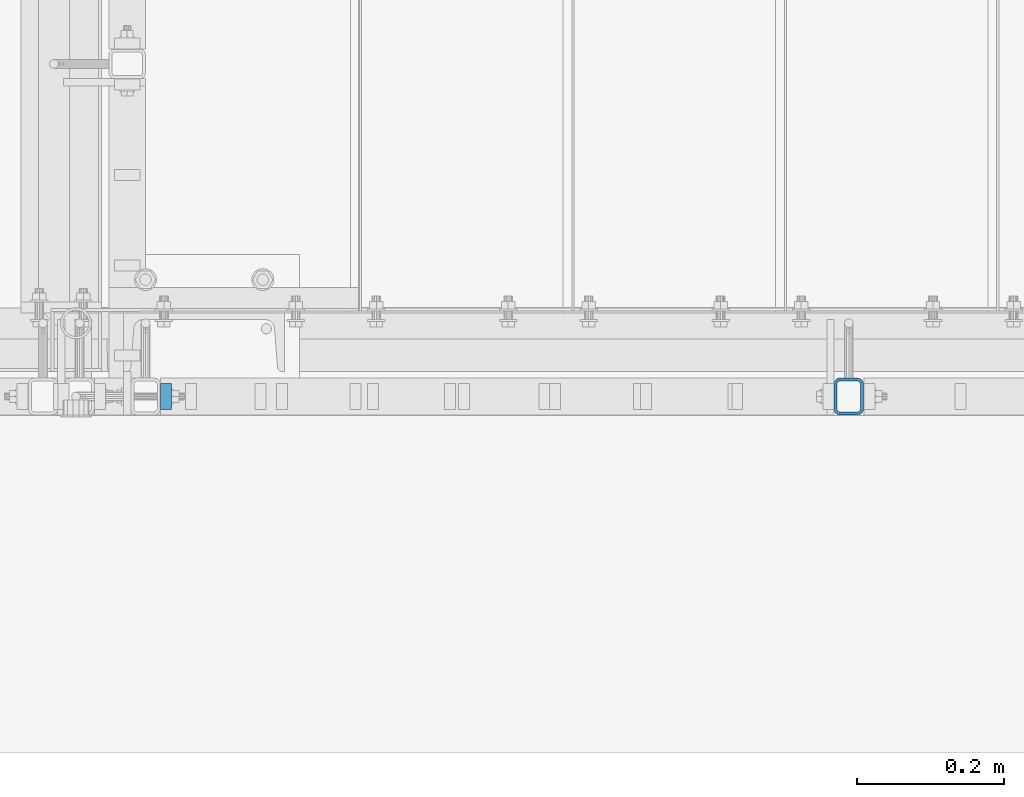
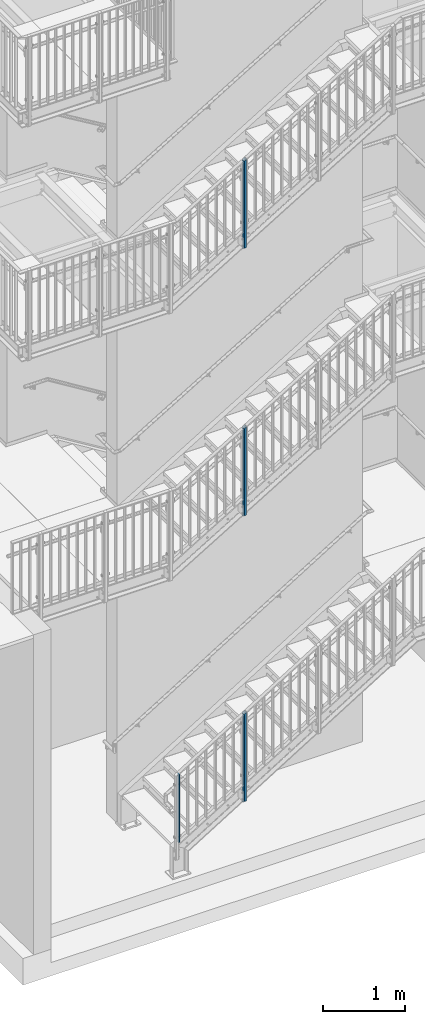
# One storey, part 7 of 410: 4 columns, 26 openings.
"""IFC2X3 building model written with IfcOpenShell, lengths in millimetres."""

from ifc_helpers import new_model, entity, si_unit, converted_unit, frame, frame_2d, origin, origin_with_axes, origin_2d, place, context, project, spatial, rectangle, hollow_rectangle, circle, extrude, clip, halfspace, material, element, save


model = new_model("IFC2X3")

# Units and contexts
model_context = context("Model", 3, precision=1e-09, world=origin_with_axes())
ifc_project = project(units=[si_unit("LENGTHUNIT", "METRE", prefix="MILLI"), si_unit("AREAUNIT", "SQUARE_METRE"), si_unit("VOLUMEUNIT", "CUBIC_METRE"), converted_unit("PLANEANGLEUNIT", "DEGREE", entity("IfcPlaneAngleMeasure", 0.01745329), si_unit("PLANEANGLEUNIT", "RADIAN"), dimensions=[0, 0, 0, 0, 0, 0, 0])], contexts=[model_context])

# Site, building, storey
site_placement = place(None, origin_with_axes())
site = spatial("IfcSite", under=ifc_project, at=site_placement, Name="mKR Teilneubau & Sanierung BA1 - Ostfildern", CompositionType="ELEMENT")
building_placement = place(site_placement, origin_with_axes())
building = spatial("IfcBuilding", under=site, at=building_placement, Name="Struktur 1", CompositionType="ELEMENT")
storey_placement = place(building_placement, origin_with_axes())
storey = spatial("IfcBuildingStorey", under=building, at=storey_placement, Name="Default Storey", CompositionType="ELEMENT", Elevation=0.0)

# Column, openings
ifc_material = material(Name="S235JR")
column_1_placement = place(None, frame((-734.998531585, 15405.999999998, 1754.356123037), z_axis=(0.0, 0.0, 1.0), x_axis=(-1.0, 0.0, 0.0)))
column_1 = element("IfcColumn", 1, at=column_1_placement, inside=storey, material=ifc_material, Name="-", ObjectType="-", context=model_context, shape_type="Clipping", body=[
    clip(clip(extrude(hollow_rectangle(XDim=40.0, YDim=50.0, WallThickness=4.0, InnerFilletRadius=4.0, OuterFilletRadius=8.0, at=origin_2d()), origin(), (0.0, 0.0, -1.0), 1495.505797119), halfspace(frame((-734.998531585, 10175.033154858, 5716.238750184), z_axis=(0.0, -0.573576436, 0.819152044), x_axis=(1.0, 0.0, 0.0)), True)), halfspace(frame((198.60118136, 15405.999999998, -197.578601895), z_axis=(-0.51430666, 0.0, -0.857606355), x_axis=(0.0, -1.0, 0.0)), True)),
])
opening_1_placement = place(column_1_placement, frame((-20.5, 0.0, -1315.902575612), z_axis=(1.0, 0.0, 0.0), x_axis=(0.0, 1.0, 0.0)))
element("IfcOpeningElement", 2, at=opening_1_placement, cuts=column_1, ObjectType="Opening", context=model_context, shape_type="SweptSolid", body=[
    extrude(circle(Radius=7.001, at=frame_2d((0.0, 50.0), x_axis=(1.0, 0.0))), origin(), (0.0, 0.0, 1.0), 5.0),
])
opening_2_placement = place(column_1_placement, frame((-20.5, 0.0, -1315.902575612), z_axis=(1.0, 0.0, 0.0), x_axis=(0.0, 1.0, 0.0)))
element("IfcOpeningElement", 3, at=opening_2_placement, cuts=column_1, ObjectType="Opening", context=model_context, shape_type="SweptSolid", body=[
    extrude(circle(Radius=7.001, at=frame_2d((0.0, -50.0), x_axis=(1.0, 0.0))), origin(), (0.0, 0.0, 1.0), 5.0),
])
opening_3_placement = place(column_1_placement, frame((15.5, 0.0, -1315.902575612), z_axis=(1.0, 0.0, 0.0), x_axis=(0.0, 1.0, 0.0)))
element("IfcOpeningElement", 4, at=opening_3_placement, cuts=column_1, ObjectType="Opening", context=model_context, shape_type="SweptSolid", body=[
    extrude(circle(Radius=7.001, at=frame_2d((0.0, 50.0), x_axis=(1.0, 0.0))), origin(), (0.0, 0.0, 1.0), 5.0),
])
opening_4_placement = place(column_1_placement, frame((15.5, 0.0, -1315.902575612), z_axis=(1.0, 0.0, 0.0), x_axis=(0.0, 1.0, 0.0)))
element("IfcOpeningElement", 5, at=opening_4_placement, cuts=column_1, ObjectType="Opening", context=model_context, shape_type="SweptSolid", body=[
    extrude(circle(Radius=7.001, at=frame_2d((0.0, -50.0), x_axis=(1.0, 0.0))), origin(), (0.0, 0.0, 1.0), 5.0),
])
opening_5_placement = place(column_1_placement, frame((15.5, -6.501, -1011.483440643), z_axis=(-1.0, 0.0, 0.0), x_axis=(0.0, -1.0, 0.0)))
element("IfcOpeningElement", 6, at=opening_5_placement, cuts=column_1, ObjectType="Opening", context=model_context, shape_type="SweptSolid", body=[
    extrude(circle(Radius=6.501, at=frame_2d((-6.501, 0.0), x_axis=(1.0, 0.0))), origin(), (0.0, 0.0, -1.0), 5.0),
])
opening_6_placement = place(column_1_placement, frame((15.5, -6.501, -226.483440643), z_axis=(-1.0, 0.0, 0.0), x_axis=(0.0, -1.0, 0.0)))
element("IfcOpeningElement", 7, at=opening_6_placement, cuts=column_1, ObjectType="Opening", context=model_context, shape_type="SweptSolid", body=[
    extrude(circle(Radius=6.501, at=frame_2d((-6.501, 0.0), x_axis=(1.0, 0.0))), origin(), (0.0, 0.0, -1.0), 5.0),
])
opening_7_placement = place(column_1_placement, frame((-20.5, -6.501, -1011.483440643), z_axis=(-1.0, 0.0, 0.0), x_axis=(0.0, -1.0, 0.0)))
element("IfcOpeningElement", 8, at=opening_7_placement, cuts=column_1, ObjectType="Opening", context=model_context, shape_type="SweptSolid", body=[
    extrude(circle(Radius=6.501, at=frame_2d((-6.501, 0.0), x_axis=(1.0, 0.0))), origin(), (0.0, 0.0, -1.0), 5.0),
])
opening_8_placement = place(column_1_placement, frame((-20.5, -6.501, -226.483440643), z_axis=(-1.0, 0.0, 0.0), x_axis=(0.0, -1.0, 0.0)))
element("IfcOpeningElement", 9, at=opening_8_placement, cuts=column_1, ObjectType="Opening", context=model_context, shape_type="SweptSolid", body=[
    extrude(circle(Radius=6.501, at=frame_2d((-6.501, 0.0), x_axis=(1.0, 0.0))), origin(), (0.0, 0.0, -1.0), 5.0),
])

column_2_placement = place(None, frame((-734.998531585, 15405.999999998, 5758.167273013), z_axis=(0.0, 0.0, 1.0), x_axis=(-1.0, 0.0, 0.0)))
column_2 = element("IfcColumn", 10, at=column_2_placement, inside=storey, material=ifc_material, Name="-", ObjectType="-", context=model_context, shape_type="Clipping", body=[
    clip(clip(extrude(hollow_rectangle(XDim=40.0, YDim=50.0, WallThickness=4.0, InnerFilletRadius=4.0, OuterFilletRadius=8.0, at=origin_2d()), origin(), (0.0, 0.0, -1.0), 1495.987494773), halfspace(frame((-734.998531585, 8294.083582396, 4398.7019829), z_axis=(0.0, -0.573576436, 0.819152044), x_axis=(1.0, 0.0, 0.0)), True)), halfspace(frame((1973.6019808, 15405.999999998, -1269.62928106), z_axis=(-0.516664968, 0.0, -0.856187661), x_axis=(0.0, -1.0, 0.0)), True)),
])
opening_9_placement = place(column_2_placement, frame((-20.5, 0.0, -1316.384273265), z_axis=(1.0, 0.0, 0.0), x_axis=(0.0, 1.0, 0.0)))
element("IfcOpeningElement", 11, at=opening_9_placement, cuts=column_2, ObjectType="Opening", context=model_context, shape_type="SweptSolid", body=[
    extrude(circle(Radius=7.001, at=frame_2d((0.0, 50.0), x_axis=(1.0, 0.0))), origin(), (0.0, 0.0, 1.0), 5.0),
])
opening_10_placement = place(column_2_placement, frame((-20.5, 0.0, -1316.384273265), z_axis=(1.0, 0.0, 0.0), x_axis=(0.0, 1.0, 0.0)))
element("IfcOpeningElement", 12, at=opening_10_placement, cuts=column_2, ObjectType="Opening", context=model_context, shape_type="SweptSolid", body=[
    extrude(circle(Radius=7.001, at=frame_2d((0.0, -50.0), x_axis=(1.0, 0.0))), origin(), (0.0, 0.0, 1.0), 5.0),
])
opening_11_placement = place(column_2_placement, frame((15.5, 0.0, -1316.384273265), z_axis=(1.0, 0.0, 0.0), x_axis=(0.0, 1.0, 0.0)))
element("IfcOpeningElement", 13, at=opening_11_placement, cuts=column_2, ObjectType="Opening", context=model_context, shape_type="SweptSolid", body=[
    extrude(circle(Radius=7.001, at=frame_2d((0.0, 50.0), x_axis=(1.0, 0.0))), origin(), (0.0, 0.0, 1.0), 5.0),
])
opening_12_placement = place(column_2_placement, frame((15.5, 0.0, -1316.384273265), z_axis=(1.0, 0.0, 0.0), x_axis=(0.0, 1.0, 0.0)))
element("IfcOpeningElement", 14, at=opening_12_placement, cuts=column_2, ObjectType="Opening", context=model_context, shape_type="SweptSolid", body=[
    extrude(circle(Radius=7.001, at=frame_2d((0.0, -50.0), x_axis=(1.0, 0.0))), origin(), (0.0, 0.0, 1.0), 5.0),
])
opening_13_placement = place(column_2_placement, frame((15.5, -6.501, -1011.593602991), z_axis=(-1.0, 0.0, 0.0), x_axis=(0.0, -1.0, 0.0)))
element("IfcOpeningElement", 15, at=opening_13_placement, cuts=column_2, ObjectType="Opening", context=model_context, shape_type="SweptSolid", body=[
    extrude(circle(Radius=6.501, at=frame_2d((-6.501, 0.0), x_axis=(1.0, 0.0))), origin(), (0.0, 0.0, -1.0), 5.0),
])
opening_14_placement = place(column_2_placement, frame((15.5, -6.501, -226.593602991), z_axis=(-1.0, 0.0, 0.0), x_axis=(0.0, -1.0, 0.0)))
element("IfcOpeningElement", 16, at=opening_14_placement, cuts=column_2, ObjectType="Opening", context=model_context, shape_type="SweptSolid", body=[
    extrude(circle(Radius=6.501, at=frame_2d((-6.501, 0.0), x_axis=(1.0, 0.0))), origin(), (0.0, 0.0, -1.0), 5.0),
])
opening_15_placement = place(column_2_placement, frame((-20.5, -6.501, -1011.593602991), z_axis=(-1.0, 0.0, 0.0), x_axis=(0.0, -1.0, 0.0)))
element("IfcOpeningElement", 17, at=opening_15_placement, cuts=column_2, ObjectType="Opening", context=model_context, shape_type="SweptSolid", body=[
    extrude(circle(Radius=6.501, at=frame_2d((-6.501, 0.0), x_axis=(1.0, 0.0))), origin(), (0.0, 0.0, -1.0), 5.0),
])
opening_16_placement = place(column_2_placement, frame((-20.5, -6.501, -226.593602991), z_axis=(-1.0, 0.0, 0.0), x_axis=(0.0, -1.0, 0.0)))
element("IfcOpeningElement", 18, at=opening_16_placement, cuts=column_2, ObjectType="Opening", context=model_context, shape_type="SweptSolid", body=[
    extrude(circle(Radius=6.501, at=frame_2d((-6.501, 0.0), x_axis=(1.0, 0.0))), origin(), (0.0, 0.0, -1.0), 5.0),
])

column_3_placement = place(None, frame((-734.998531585, 15405.999999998, -2519.705356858), z_axis=(0.0, 0.0, 1.0), x_axis=(-1.0, 0.0, 0.0)))
column_3 = element("IfcColumn", 19, at=column_3_placement, inside=storey, material=ifc_material, Name="-", ObjectType="-", context=model_context, shape_type="Clipping", body=[
    clip(clip(extrude(hollow_rectangle(XDim=40.0, YDim=50.0, WallThickness=4.0, InnerFilletRadius=4.0, OuterFilletRadius=8.0, at=origin_2d()), origin(), (0.0, 0.0, -1.0), 1497.682689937), halfspace(frame((-734.998531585, 12184.207976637, 7120.901213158), z_axis=(0.0, -0.573576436, 0.819152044), x_axis=(1.0, 0.0, 0.0)), True)), halfspace(frame((-1693.621616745, 15405.999999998, 964.891628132), z_axis=(-0.524817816, 0.0, -0.851214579), x_axis=(0.0, -1.0, 0.0)), True)),
])
opening_17_placement = place(column_3_placement, frame((-20.5, 0.0, -1318.079468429), z_axis=(1.0, 0.0, 0.0), x_axis=(0.0, 1.0, 0.0)))
element("IfcOpeningElement", 20, at=opening_17_placement, cuts=column_3, ObjectType="Opening", context=model_context, shape_type="SweptSolid", body=[
    extrude(circle(Radius=7.001, at=frame_2d((0.0, 50.0), x_axis=(1.0, 0.0))), origin(), (0.0, 0.0, 1.0), 5.0),
])
opening_18_placement = place(column_3_placement, frame((-20.5, 0.0, -1318.079468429), z_axis=(1.0, 0.0, 0.0), x_axis=(0.0, 1.0, 0.0)))
element("IfcOpeningElement", 21, at=opening_18_placement, cuts=column_3, ObjectType="Opening", context=model_context, shape_type="SweptSolid", body=[
    extrude(circle(Radius=7.001, at=frame_2d((0.0, -50.0), x_axis=(1.0, 0.0))), origin(), (0.0, 0.0, 1.0), 5.0),
])
opening_19_placement = place(column_3_placement, frame((15.5, 0.0, -1318.079468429), z_axis=(1.0, 0.0, 0.0), x_axis=(0.0, 1.0, 0.0)))
element("IfcOpeningElement", 22, at=opening_19_placement, cuts=column_3, ObjectType="Opening", context=model_context, shape_type="SweptSolid", body=[
    extrude(circle(Radius=7.001, at=frame_2d((0.0, 50.0), x_axis=(1.0, 0.0))), origin(), (0.0, 0.0, 1.0), 5.0),
])
opening_20_placement = place(column_3_placement, frame((15.5, 0.0, -1318.079468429), z_axis=(1.0, 0.0, 0.0), x_axis=(0.0, 1.0, 0.0)))
element("IfcOpeningElement", 23, at=opening_20_placement, cuts=column_3, ObjectType="Opening", context=model_context, shape_type="SweptSolid", body=[
    extrude(circle(Radius=7.001, at=frame_2d((0.0, -50.0), x_axis=(1.0, 0.0))), origin(), (0.0, 0.0, 1.0), 5.0),
])
opening_21_placement = place(column_3_placement, frame((15.5, -6.501, -1011.982665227), z_axis=(-1.0, 0.0, 0.0), x_axis=(0.0, -1.0, 0.0)))
element("IfcOpeningElement", 24, at=opening_21_placement, cuts=column_3, ObjectType="Opening", context=model_context, shape_type="SweptSolid", body=[
    extrude(circle(Radius=6.501, at=frame_2d((-6.501, 0.0), x_axis=(1.0, 0.0))), origin(), (0.0, 0.0, -1.0), 5.0),
])
opening_22_placement = place(column_3_placement, frame((15.5, -6.501, -226.982665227), z_axis=(-1.0, 0.0, 0.0), x_axis=(0.0, -1.0, 0.0)))
element("IfcOpeningElement", 25, at=opening_22_placement, cuts=column_3, ObjectType="Opening", context=model_context, shape_type="SweptSolid", body=[
    extrude(circle(Radius=6.501, at=frame_2d((-6.501, 0.0), x_axis=(1.0, 0.0))), origin(), (0.0, 0.0, -1.0), 5.0),
])
opening_23_placement = place(column_3_placement, frame((-20.5, -6.501, -1011.982665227), z_axis=(-1.0, 0.0, 0.0), x_axis=(0.0, -1.0, 0.0)))
element("IfcOpeningElement", 26, at=opening_23_placement, cuts=column_3, ObjectType="Opening", context=model_context, shape_type="SweptSolid", body=[
    extrude(circle(Radius=6.501, at=frame_2d((-6.501, 0.0), x_axis=(1.0, 0.0))), origin(), (0.0, 0.0, -1.0), 5.0),
])
opening_24_placement = place(column_3_placement, frame((-20.5, -6.501, -226.982665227), z_axis=(-1.0, 0.0, 0.0), x_axis=(0.0, -1.0, 0.0)))
element("IfcOpeningElement", 27, at=opening_24_placement, cuts=column_3, ObjectType="Opening", context=model_context, shape_type="SweptSolid", body=[
    extrude(circle(Radius=6.501, at=frame_2d((-6.501, 0.0), x_axis=(1.0, 0.0))), origin(), (0.0, 0.0, -1.0), 5.0),
])

column_4_placement = place(None, frame((-1666.998531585, 15405.999999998, -4210.280355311), z_axis=(0.0, 0.0, -1.0), x_axis=(1.0, 0.0, 0.0)))
column_4 = element("IfcColumn", 28, at=column_4_placement, inside=storey, material=ifc_material, Name="-", ObjectType="-", context=model_context, shape_type="SweptSolid", body=[
    extrude(rectangle(XDim=15.0, YDim=35.0, at=origin_2d()), origin(), (0.0, 0.0, -1.0), 1025.117869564),
])
opening_25_placement = place(column_4_placement, frame((8.0, -6.001, -86.702678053), z_axis=(1.0, 0.0, 0.0), x_axis=(0.0, 1.0, 0.0)))
element("IfcOpeningElement", 29, at=opening_25_placement, cuts=column_4, ObjectType="Opening", context=model_context, shape_type="SweptSolid", body=[
    extrude(circle(Radius=6.001, at=frame_2d((6.001, 0.0), x_axis=(1.0, 0.0))), origin(), (0.0, 0.0, -1.0), 16.0),
])
opening_26_placement = place(column_4_placement, frame((8.0, -6.001, -871.702678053), z_axis=(1.0, 0.0, 0.0), x_axis=(0.0, 1.0, 0.0)))
element("IfcOpeningElement", 30, at=opening_26_placement, cuts=column_4, ObjectType="Opening", context=model_context, shape_type="SweptSolid", body=[
    extrude(circle(Radius=6.001, at=frame_2d((6.001, 0.0), x_axis=(1.0, 0.0))), origin(), (0.0, 0.0, -1.0), 16.0),
])

save(model, "model.ifc")
